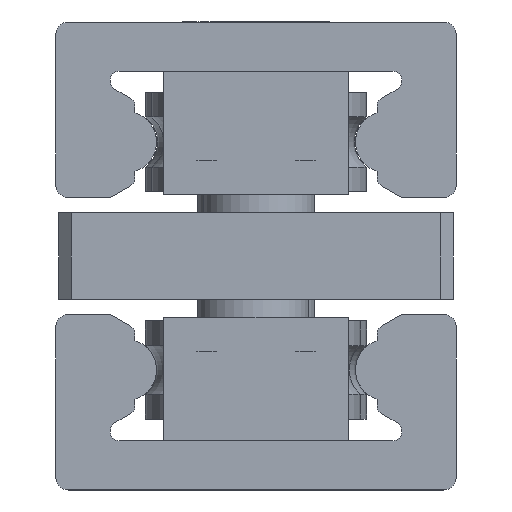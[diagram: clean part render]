
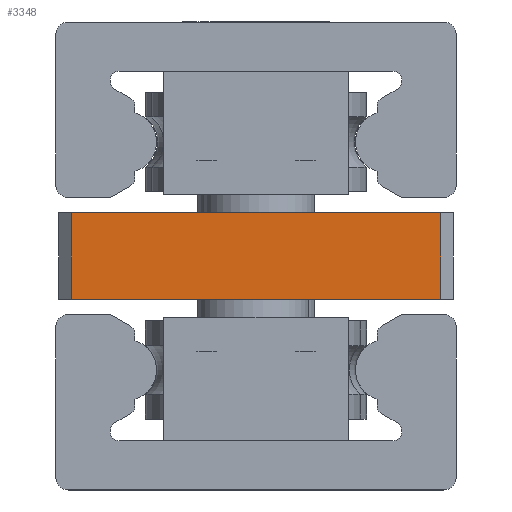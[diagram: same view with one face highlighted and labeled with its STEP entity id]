
A CAD part, left-side view. The second image highlights one B-rep face of the part: STEP entity #3348.
In plain terms, the highlighted planar face has unit normal (-1, 0, 0).
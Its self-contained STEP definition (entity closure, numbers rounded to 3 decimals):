
#108 = DIRECTION ( 'NONE',  ( 0., 0., -1. ) ) ;
#269 = CARTESIAN_POINT ( 'NONE',  ( 0., 32., 25.5 ) ) ;
#303 = CARTESIAN_POINT ( 'NONE',  ( 0., -30., 11.5 ) ) ;
#440 = ORIENTED_EDGE ( 'NONE', *, *, #3619, .F. ) ;
#503 = VERTEX_POINT ( 'NONE', #2040 ) ;
#504 = PLANE ( 'NONE',  #4441 ) ;
#631 = DIRECTION ( 'NONE',  ( 0., 1., 0. ) ) ;
#674 = LINE ( 'NONE', #4831, #7784 ) ;
#872 = DIRECTION ( 'NONE',  ( 0., 0., 1. ) ) ;
#1189 = FACE_OUTER_BOUND ( 'NONE', #2538, .T. ) ;
#1235 = DIRECTION ( 'NONE',  ( 0., 0., -1. ) ) ;
#1842 = CARTESIAN_POINT ( 'NONE',  ( 0., 30., 25.5 ) ) ;
#2040 = CARTESIAN_POINT ( 'NONE',  ( 0., -30., 25.5 ) ) ;
#2538 = EDGE_LOOP ( 'NONE', ( #8394, #8218, #7061, #440 ) ) ;
#2600 = DIRECTION ( 'NONE',  ( 1., 0., 0. ) ) ;
#2746 = VECTOR ( 'NONE', #872, 1000. ) ;
#3081 = VERTEX_POINT ( 'NONE', #8673 ) ;
#3348 = ADVANCED_FACE ( 'NONE', ( #1189 ), #504, .F. ) ;
#3428 = LINE ( 'NONE', #3639, #2746 ) ;
#3607 = VECTOR ( 'NONE', #108, 1000. ) ;
#3619 = EDGE_CURVE ( 'NONE', #5738, #503, #4974, .T. ) ;
#3639 = CARTESIAN_POINT ( 'NONE',  ( 0., 30., 22. ) ) ;
#3769 = DIRECTION ( 'NONE',  ( 0., -1., 0. ) ) ;
#3784 = EDGE_CURVE ( 'NONE', #8121, #3081, #674, .T. ) ;
#4441 = AXIS2_PLACEMENT_3D ( 'NONE', #5397, #2600, #1235 ) ;
#4831 = CARTESIAN_POINT ( 'NONE',  ( 0., -32., 11.5 ) ) ;
#4974 = LINE ( 'NONE', #269, #6754 ) ;
#5397 = CARTESIAN_POINT ( 'NONE',  ( 0., 0., 18.5 ) ) ;
#5541 = EDGE_CURVE ( 'NONE', #503, #8121, #8431, .T. ) ;
#5637 = CARTESIAN_POINT ( 'NONE',  ( 0., -30., 15. ) ) ;
#5738 = VERTEX_POINT ( 'NONE', #1842 ) ;
#5872 = EDGE_CURVE ( 'NONE', #3081, #5738, #3428, .T. ) ;
#6754 = VECTOR ( 'NONE', #3769, 1000. ) ;
#7061 = ORIENTED_EDGE ( 'NONE', *, *, #5541, .F. ) ;
#7784 = VECTOR ( 'NONE', #631, 1000. ) ;
#8121 = VERTEX_POINT ( 'NONE', #303 ) ;
#8218 = ORIENTED_EDGE ( 'NONE', *, *, #3784, .F. ) ;
#8394 = ORIENTED_EDGE ( 'NONE', *, *, #5872, .F. ) ;
#8431 = LINE ( 'NONE', #5637, #3607 ) ;
#8673 = CARTESIAN_POINT ( 'NONE',  ( 0., 30., 11.5 ) ) ;
